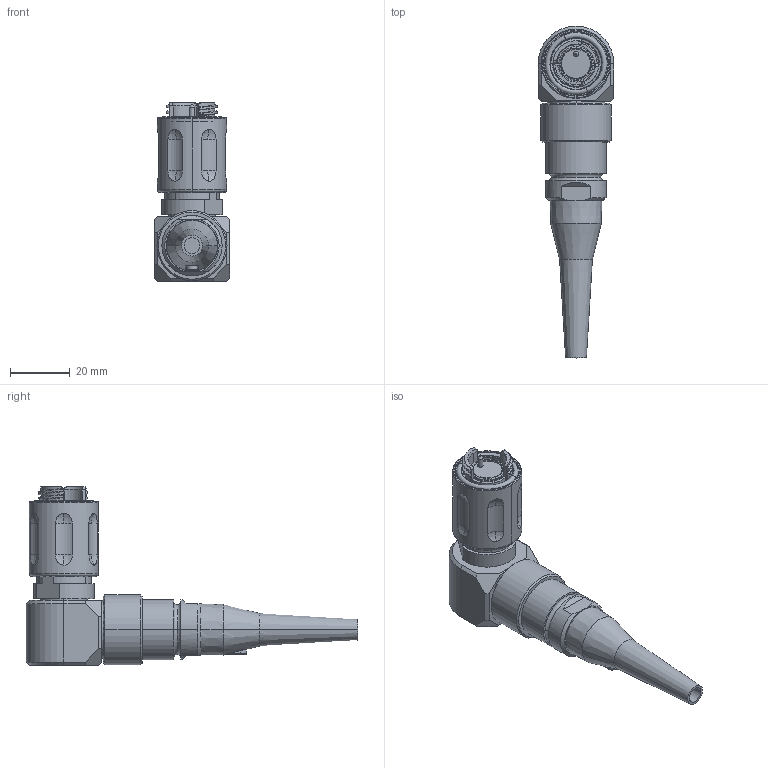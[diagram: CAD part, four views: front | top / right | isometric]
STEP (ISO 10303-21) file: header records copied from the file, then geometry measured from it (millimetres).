
FILE_DESCRIPTION (( 'STEP AP214' ), '1' );
FILE_NAME ('QMICRO90S-PEXX-XXXX-SXX.STEP', '2025-05-02T23:40:24', ( '' ), ( '' ), 'SwSTEP 2.0', 'SolidWorks 2024', '' );
FILE_SCHEMA (( 'AUTOMOTIVE_DESIGN' ));
Length unit declared in the file: inch
Products named in the file (1): QMICRO90S-PEXX-XXXX-SXX
Bounding box: 25.4 x 111.23 x 59.69 mm (x, y, z)
Volume: 39618.8 mm3; surface area: 14014.5 mm2
Topology: 1 solids, 3 shells, 303 faces, 744 edges, 477 vertices
Faces by surface type: cylinder 101, plane 72, bspline 42, cone 39, torus 25, sphere 24
Entity records: 17093 total; most frequent: CARTESIAN_POINT 10375, ORIENTED_EDGE 1488, DIRECTION 1307, EDGE_CURVE 744, AXIS2_PLACEMENT_3D 534, VERTEX_POINT 477, EDGE_LOOP 333, ADVANCED_FACE 303
